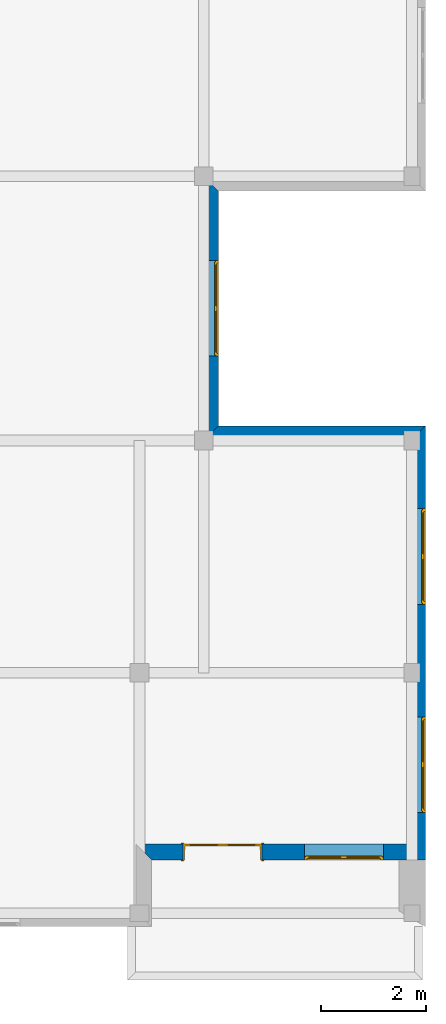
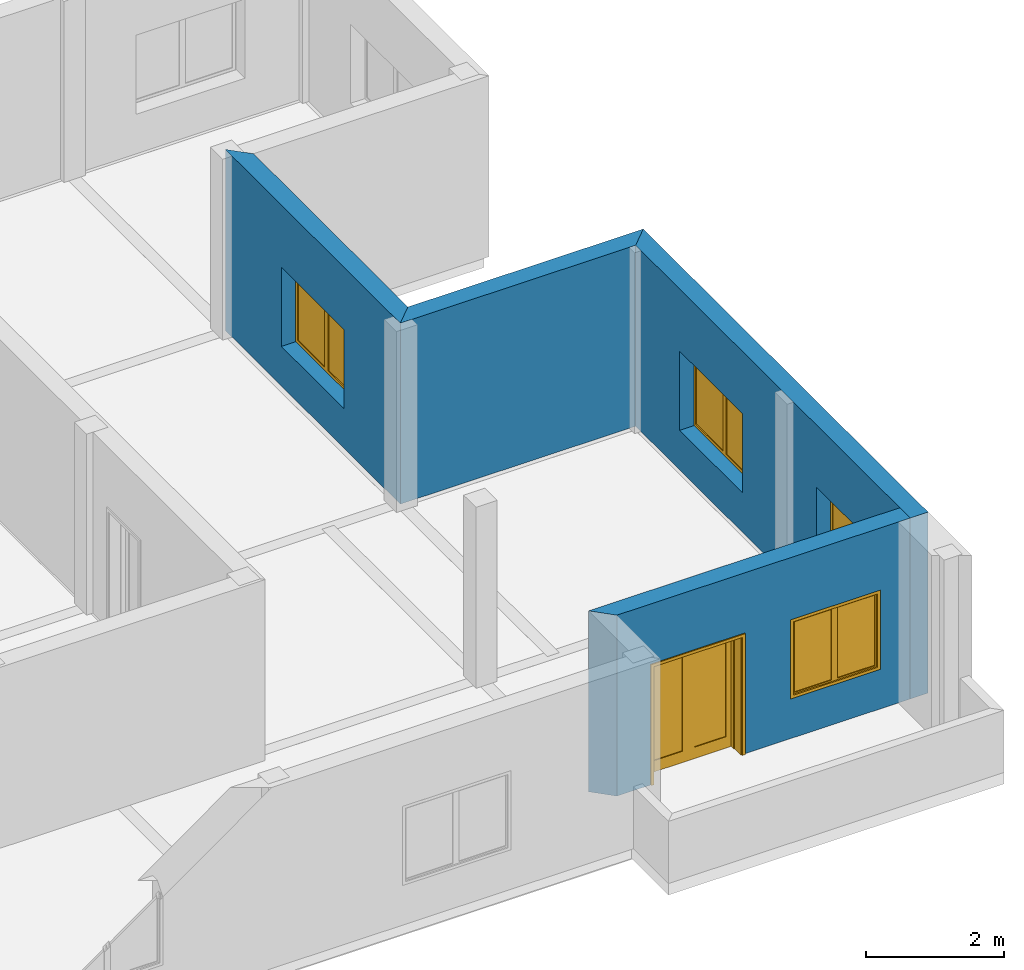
# One storey, part 5 of 6: 4 walls, 4 windows, 1 door, 5 openings.
"""IFC2X3 building model written with IfcOpenShell, lengths in millimetres."""

from ifc_helpers import new_model, entity, si_unit, converted_unit, direction, frame, origin_with_axes, origin_2d_with_axis, place, context, subcontext, project, spatial, polyline, rectangle, outline, extrude, faceted_brep, source, transform, mapped, material, layer, layer_set, layer_usage, type_object, element, fill, save


model = new_model("IFC2X3")

# Units and contexts
model_context = context("Model", 3, precision=1e-05, world=origin_with_axes(), true_north=direction((0.0, 1.0)))
body_context = subcontext(model_context, "Body", "Model", "MODEL_VIEW")
ifc_project = project(units=[si_unit("LENGTHUNIT", "METRE", prefix="MILLI"), si_unit("AREAUNIT", "SQUARE_METRE"), si_unit("VOLUMEUNIT", "CUBIC_METRE"), converted_unit("PLANEANGLEUNIT", "DEGREE", entity("IfcPlaneAngleMeasure", 0.017453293), si_unit("PLANEANGLEUNIT", "RADIAN"), dimensions=[0, 0, 0, 0, 0, 0, 0]), si_unit("SOLIDANGLEUNIT", "STERADIAN"), si_unit("MASSUNIT", "GRAM"), si_unit("TIMEUNIT", "SECOND"), si_unit("THERMODYNAMICTEMPERATUREUNIT", "DEGREE_CELSIUS"), si_unit("LUMINOUSINTENSITYUNIT", "LUMEN")], contexts=[model_context])

# Site, building, storey
site_placement = place(None, origin_with_axes())
site = spatial("IfcSite", under=ifc_project, at=site_placement, Name="Sitio", CompositionType="ELEMENT")
building_placement = place(site_placement, origin_with_axes())
building = spatial("IfcBuilding", under=site, at=building_placement, Name="Ejemplo_StruBIM", CompositionType="ELEMENT")
storey_placement = place(building_placement, frame((0.0, 0.0, 12801.6), z_axis=(0.0, 0.0, 1.0), x_axis=(1.0, 0.0, 0.0)))
storey = spatial("IfcBuildingStorey", under=building, at=storey_placement, Name="Fourth floor", CompositionType="ELEMENT", Elevation=12801.6)

# Wall
ifc_material_1 = material(Name="Bloque mampostería")
ifc_layer = layer(ifc_material_1, 300.0, ventilated="UNKNOWN")
ifc_layer_set = layer_set([ifc_layer], Name="Bloque mampostería 300")
ifc_layer_usage_1 = layer_usage(ifc_layer_set, "AXIS2", "POSITIVE", 0.0)
wall_type = type_object("IfcWallType", Name="Bloque mampostería 11 3/4\"", PredefinedType="NOTDEFINED")
wall_1_placement = place(storey_placement, frame((22809.2, 9271.0, 0.0), z_axis=(0.0, 0.0, 1.0), x_axis=(-1.0, 0.0, 0.0)))
element("IfcWallStandardCase", 1, at=wall_1_placement, inside=storey, type_object=wall_type, material=ifc_layer_usage_1, Name="Muro-012", context=body_context, shape_type="SweptSolid", body=[
    extrude(outline(polyline([(0.0, 0.0), (3937.0, 0.0), (4237.0, 300.0), (300.0, 300.0), (0.0, 0.0)])), origin_with_axes(), (0.0, 0.0, 1.0), 3200.4),
])

# Wall, opening, window
ifc_layer_usage_2 = layer_usage(ifc_layer_set, "AXIS2", "POSITIVE", 0.0)
wall_2_placement = place(storey_placement, frame((18872.2, 9271.0, 0.0), z_axis=(0.0, 0.0, 1.0), x_axis=(0.0, 1.0, 0.0)))
wall_2 = element("IfcWallStandardCase", 2, at=wall_2_placement, inside=storey, type_object=wall_type, material=ifc_layer_usage_2, Name="Muro-013", context=body_context, shape_type="SweptSolid", body=[
    extrude(outline(polyline([(0.0, 0.0), (4470.4, 0.0), (4770.4, 300.0), (-300.0, 300.0), (0.0, 0.0)])), origin_with_axes(), (0.0, 0.0, 1.0), 3200.4),
])
opening_1_placement = place(wall_2_placement, frame((2235.2, 0.0, 700.0), z_axis=(0.0, 0.0, 1.0), x_axis=(1.0, 0.0, 0.0)))
opening_1 = element("IfcOpeningElement", 3, at=opening_1_placement, cuts=wall_2, Name="V18", context=body_context, shape_type="SweptSolid", body=[
    extrude(rectangle(XDim=1820.0, YDim=1400.0, at=origin_2d_with_axis()), frame((0.0, 300.0, 700.0), z_axis=(0.0, -1.0, 0.0), x_axis=(1.0, 0.0, 0.0)), (0.0, 0.0, 1.0), 300.0),
])
ifc_material_2 = material(Name="Fondo")
window_style = type_object("IfcWindowStyle", Name="Ventana Doble Hoja 16", ConstructionType="NOTDEFINED", OperationType="DOUBLE_PANEL_HORIZONTAL", ParameterTakesPrecedence=False, Sizeable=False)
shared_shape_1 = source(origin_with_axes(), body_context, "Body", "Brep", [
    faceted_brep([(-885.0, -50.0, 1350.0), (-885.0, -25.0, 1350.0), (-860.0, -25.0, 1350.0), (-860.0, 0.0, 1350.0), (-910.0, 0.0, 1350.0), (-910.0, -50.0, 1350.0), (-885.0, -50.0, 50.0), (-885.0, -25.0, 50.0), (-860.0, -25.0, 50.0), (-860.0, 0.0, 50.0), (-910.0, 0.0, 50.0), (-910.0, -50.0, 50.0)], [[[0, 1, 2, 3, 4, 5]], [[1, 0, 6, 7]], [[8, 2, 1, 7]], [[2, 8, 9, 3]], [[4, 3, 9, 10]], [[5, 4, 10, 11]], [[6, 0, 5, 11]], [[7, 6, 11, 10, 9, 8]]]),
    faceted_brep([(860.0, -25.0, 1350.0), (885.0, -25.0, 1350.0), (885.0, -50.0, 1350.0), (910.0, -50.0, 1350.0), (910.0, 0.0, 1350.0), (860.0, 0.0, 1350.0), (860.0, -25.0, 50.0), (885.0, -25.0, 50.0), (885.0, -50.0, 50.0), (910.0, -50.0, 50.0), (910.0, 0.0, 50.0), (860.0, 0.0, 50.0)], [[[0, 1, 2, 3, 4, 5]], [[1, 0, 6, 7]], [[8, 2, 1, 7]], [[2, 8, 9, 3]], [[9, 10, 4, 3]], [[10, 11, 5, 4]], [[6, 0, 5, 11]], [[7, 6, 11, 10, 9, 8]]]),
    faceted_brep([(860.0, -25.0, 50.0), (885.0, -25.0, 50.0), (885.0, -50.0, 50.0), (910.0, -50.0, 50.0), (910.0, 0.0, 50.0), (860.0, 0.0, 50.0), (-860.0, -25.0, 50.0), (-885.0, -25.0, 50.0), (-885.0, -25.0, 25.0), (885.0, -25.0, 25.0), (885.0, -50.0, 25.0), (-885.0, -50.0, 25.0), (-885.0, -50.0, 50.0), (-910.0, -50.0, 50.0), (-910.0, -50.0, 0.0), (910.0, -50.0, 0.0), (910.0, 0.0, 0.0), (-910.0, 0.0, 50.0), (-860.0, 0.0, 50.0), (-910.0, 0.0, 0.0)], [[[0, 1, 2, 3, 4, 5]], [[1, 0, 6, 7, 8, 9]], [[10, 2, 1, 9]], [[11, 12, 13, 14, 15, 3, 2, 10]], [[15, 16, 4, 3]], [[17, 18, 5, 4, 16, 19]], [[6, 0, 5, 18]], [[7, 6, 18, 17, 13, 12]], [[7, 12, 11, 8]], [[11, 10, 9, 8]], [[13, 17, 19, 14]], [[14, 19, 16, 15]]]),
    faceted_brep([(-885.0, -50.0, 1350.0), (-885.0, -50.0, 1375.0), (885.0, -50.0, 1375.0), (885.0, -50.0, 1350.0), (910.0, -50.0, 1350.0), (910.0, -50.0, 1400.0), (-910.0, -50.0, 1400.0), (-910.0, -50.0, 1350.0), (-885.0, -25.0, 1350.0), (-885.0, -25.0, 1375.0), (885.0, -25.0, 1375.0), (885.0, -25.0, 1350.0), (860.0, -25.0, 1350.0), (860.0, 0.0, 1350.0), (910.0, 0.0, 1350.0), (910.0, 0.0, 1400.0), (-910.0, 0.0, 1400.0), (-910.0, 0.0, 1350.0), (-860.0, 0.0, 1350.0), (-860.0, -25.0, 1350.0)], [[[0, 1, 2, 3, 4, 5, 6, 7]], [[1, 0, 8, 9]], [[2, 1, 9, 10]], [[3, 2, 10, 11]], [[11, 12, 13, 14, 4, 3]], [[4, 14, 15, 5]], [[5, 15, 16, 6]], [[6, 16, 17, 7]], [[8, 0, 7, 17, 18, 19]], [[12, 11, 10, 9, 8, 19]], [[12, 19, 18, 13]], [[14, 13, 18, 17, 16, 15]]]),
    faceted_brep([(-835.0, -25.0, 1325.0), (-885.0, -25.0, 1325.0), (-885.0, -75.0, 1325.0), (-835.0, -75.0, 1325.0), (-835.0, -25.0, 75.0), (-885.0, -25.0, 75.0), (-885.0, -75.0, 75.0), (-835.0, -75.0, 75.0)], [[[0, 1, 2, 3]], [[0, 4, 5, 1]], [[1, 5, 6, 2]], [[3, 2, 6, 7]], [[4, 0, 3, 7]], [[5, 4, 7, 6]]]),
    faceted_brep([(-50.0, -25.0, 75.0), (0.0, -25.0, 75.0), (0.0, -75.0, 75.0), (-50.0, -75.0, 75.0), (-50.0, -25.0, 1325.0), (0.0, -25.0, 1325.0), (0.0, -75.0, 1325.0), (-50.0, -75.0, 1325.0)], [[[0, 1, 2, 3]], [[0, 4, 5, 1]], [[1, 5, 6, 2]], [[3, 2, 6, 7]], [[4, 0, 3, 7]], [[5, 4, 7, 6]]]),
    faceted_brep([(0.0, -25.0, 25.0), (0.0, -25.0, 75.0), (0.0, -75.0, 75.0), (0.0, -75.0, 25.0), (-885.0, -25.0, 25.0), (-885.0, -25.0, 75.0), (-835.0, -25.0, 75.0), (-50.0, -25.0, 75.0), (-50.0, -75.0, 75.0), (-835.0, -75.0, 75.0), (-885.0, -75.0, 75.0), (-885.0, -75.0, 25.0)], [[[0, 1, 2, 3]], [[0, 4, 5, 6, 7, 1]], [[1, 7, 8, 2]], [[3, 2, 8, 9, 10, 11]], [[4, 0, 3, 11]], [[5, 4, 11, 10]], [[6, 5, 10, 9]], [[7, 6, 9, 8]]]),
    faceted_brep([(-885.0, -25.0, 1375.0), (-885.0, -25.0, 1325.0), (-885.0, -75.0, 1325.0), (-885.0, -75.0, 1375.0), (0.0, -25.0, 1375.0), (0.0, -25.0, 1325.0), (-50.0, -25.0, 1325.0), (-835.0, -25.0, 1325.0), (-835.0, -75.0, 1325.0), (-50.0, -75.0, 1325.0), (0.0, -75.0, 1325.0), (0.0, -75.0, 1375.0)], [[[0, 1, 2, 3]], [[0, 4, 5, 6, 7, 1]], [[1, 7, 8, 2]], [[3, 2, 8, 9, 10, 11]], [[4, 0, 3, 11]], [[5, 4, 11, 10]], [[6, 5, 10, 9]], [[7, 6, 9, 8]]]),
    faceted_brep([(-835.0, -40.0, 75.0), (-50.0, -40.0, 75.0), (-50.0, -60.0, 75.0), (-835.0, -60.0, 75.0), (-835.0, -40.0, 1325.0), (-50.0, -40.0, 1325.0), (-50.0, -60.0, 1325.0), (-835.0, -60.0, 1325.0)], [[[0, 1, 2, 3]], [[0, 4, 5, 1]], [[1, 5, 6, 2]], [[3, 2, 6, 7]], [[4, 0, 3, 7]], [[5, 4, 7, 6]]]),
    faceted_brep([(50.0, -25.0, 1325.0), (0.0, -25.0, 1325.0), (0.0, -75.0, 1325.0), (50.0, -75.0, 1325.0), (50.0, -25.0, 75.0), (0.0, -25.0, 75.0), (0.0, -75.0, 75.0), (50.0, -75.0, 75.0)], [[[0, 1, 2, 3]], [[0, 4, 5, 1]], [[1, 5, 6, 2]], [[3, 2, 6, 7]], [[4, 0, 3, 7]], [[5, 4, 7, 6]]]),
    faceted_brep([(835.0, -25.0, 75.0), (885.0, -25.0, 75.0), (885.0, -75.0, 75.0), (835.0, -75.0, 75.0), (835.0, -25.0, 1325.0), (885.0, -25.0, 1325.0), (885.0, -75.0, 1325.0), (835.0, -75.0, 1325.0)], [[[0, 1, 2, 3]], [[0, 4, 5, 1]], [[1, 5, 6, 2]], [[3, 2, 6, 7]], [[4, 0, 3, 7]], [[5, 4, 7, 6]]]),
    faceted_brep([(885.0, -25.0, 25.0), (885.0, -25.0, 75.0), (885.0, -75.0, 75.0), (885.0, -75.0, 25.0), (0.0, -25.0, 25.0), (0.0, -25.0, 75.0), (50.0, -25.0, 75.0), (835.0, -25.0, 75.0), (835.0, -75.0, 75.0), (50.0, -75.0, 75.0), (0.0, -75.0, 75.0), (0.0, -75.0, 25.0)], [[[0, 1, 2, 3]], [[0, 4, 5, 6, 7, 1]], [[1, 7, 8, 2]], [[3, 2, 8, 9, 10, 11]], [[4, 0, 3, 11]], [[5, 4, 11, 10]], [[6, 5, 10, 9]], [[7, 6, 9, 8]]]),
    faceted_brep([(0.0, -25.0, 1375.0), (0.0, -25.0, 1325.0), (0.0, -75.0, 1325.0), (0.0, -75.0, 1375.0), (885.0, -25.0, 1375.0), (885.0, -25.0, 1325.0), (835.0, -25.0, 1325.0), (50.0, -25.0, 1325.0), (50.0, -75.0, 1325.0), (835.0, -75.0, 1325.0), (885.0, -75.0, 1325.0), (885.0, -75.0, 1375.0)], [[[0, 1, 2, 3]], [[0, 4, 5, 6, 7, 1]], [[1, 7, 8, 2]], [[3, 2, 8, 9, 10, 11]], [[4, 0, 3, 11]], [[5, 4, 11, 10]], [[6, 5, 10, 9]], [[7, 6, 9, 8]]]),
    faceted_brep([(50.0, -40.0, 75.0), (835.0, -40.0, 75.0), (835.0, -60.0, 75.0), (50.0, -60.0, 75.0), (50.0, -40.0, 1325.0), (835.0, -40.0, 1325.0), (835.0, -60.0, 1325.0), (50.0, -60.0, 1325.0)], [[[0, 1, 2, 3]], [[0, 4, 5, 1]], [[1, 5, 6, 2]], [[3, 2, 6, 7]], [[4, 0, 3, 7]], [[5, 4, 7, 6]]]),
])
window_1_placement = place(opening_1_placement, frame((910.0, 0.0, 0.0), z_axis=(0.0, 0.0, 1.0), x_axis=(-1.0, 0.0, 0.0)))
window_1 = element("IfcWindow", 4, at=window_1_placement, inside=storey, type_object=window_style, material=ifc_material_2, Name="V18", OverallHeight=1400.0, OverallWidth=1820.0, context=body_context, shape_type="MappedRepresentation", body=[
    mapped(shared_shape_1, transform((910.0, 0.0, 0.0))),
])
fill(opening_1, window_1)

# Wall, openings, windows
ifc_layer_usage_3 = layer_usage(ifc_layer_set, "AXIS2", "POSITIVE", 0.0)
wall_3_placement = place(storey_placement, frame((22809.2, 1016.0, 0.0), z_axis=(0.0, 0.0, 1.0), x_axis=(0.0, 1.0, 0.0)))
wall_3 = element("IfcWallStandardCase", 5, at=wall_3_placement, inside=storey, type_object=wall_type, material=ifc_layer_usage_3, Name="Muro-014", context=body_context, shape_type="SweptSolid", body=[
    extrude(outline(polyline([(0.0, 0.0), (8255.0, 0.0), (7955.0, 300.0), (0.0, 300.0), (0.0, 0.0)])), origin_with_axes(), (0.0, 0.0, 1.0), 3200.4),
])
opening_2_placement = place(wall_3_placement, frame((5770.2, 0.0, 700.0), z_axis=(0.0, 0.0, 1.0), x_axis=(1.0, 0.0, 0.0)))
opening_2 = element("IfcOpeningElement", 6, at=opening_2_placement, cuts=wall_3, Name="V14", context=body_context, shape_type="SweptSolid", body=[
    extrude(rectangle(XDim=1820.0, YDim=1400.0, at=origin_2d_with_axis()), frame((0.0, 300.0, 700.0), z_axis=(0.0, -1.0, 0.0), x_axis=(1.0, 0.0, 0.0)), (0.0, 0.0, 1.0), 300.0),
])
opening_3_placement = place(wall_3_placement, frame((1811.7, 0.0, 700.0), z_axis=(0.0, 0.0, 1.0), x_axis=(1.0, 0.0, 0.0)))
opening_3 = element("IfcOpeningElement", 7, at=opening_3_placement, cuts=wall_3, Name="V15", context=body_context, shape_type="SweptSolid", body=[
    extrude(rectangle(XDim=1820.0, YDim=1400.0, at=origin_2d_with_axis()), frame((0.0, 300.0, 700.0), z_axis=(0.0, -1.0, 0.0), x_axis=(1.0, 0.0, 0.0)), (0.0, 0.0, 1.0), 300.0),
])
window_2_placement = place(opening_2_placement, frame((910.0, 0.0, 0.0), z_axis=(0.0, 0.0, 1.0), x_axis=(-1.0, 0.0, 0.0)))
window_2 = element("IfcWindow", 8, at=window_2_placement, inside=storey, type_object=window_style, material=ifc_material_2, Name="V14", OverallHeight=1400.0, OverallWidth=1820.0, context=body_context, shape_type="MappedRepresentation", body=[
    mapped(shared_shape_1, transform((910.0, 0.0, 0.0))),
])
fill(opening_2, window_2)
window_3_placement = place(opening_3_placement, frame((910.0, 0.0, 0.0), z_axis=(0.0, 0.0, 1.0), x_axis=(-1.0, 0.0, 0.0)))
window_3 = element("IfcWindow", 9, at=window_3_placement, inside=storey, type_object=window_style, material=ifc_material_2, Name="V15", OverallHeight=1400.0, OverallWidth=1820.0, context=body_context, shape_type="MappedRepresentation", body=[
    mapped(shared_shape_1, transform((910.0, 0.0, 0.0))),
])
fill(opening_3, window_3)

# Wall, openings, door, window
ifc_layer_usage_4 = layer_usage(ifc_layer_set, "AXIS2", "POSITIVE", 0.0)
wall_4_placement = place(storey_placement, frame((17602.2, 1016.0, 0.0), z_axis=(0.0, 0.0, 1.0), x_axis=(1.0, 0.0, 0.0)))
wall_4 = element("IfcWallStandardCase", 10, at=wall_4_placement, inside=storey, type_object=wall_type, material=ifc_layer_usage_4, Name="Muro-015", context=body_context, shape_type="SweptSolid", body=[
    extrude(outline(polyline([(0.0, 0.0), (4907.0, 0.0), (4907.0, 300.0), (-300.0, 300.0), (0.0, 0.0)])), origin_with_axes(), (0.0, 0.0, 1.0), 3200.4),
])
opening_4_placement = place(wall_4_placement, frame((3657.6, 0.0, 700.0), z_axis=(0.0, 0.0, 1.0), x_axis=(1.0, 0.0, 0.0)))
opening_4 = element("IfcOpeningElement", 11, at=opening_4_placement, cuts=wall_4, Name="V02", context=body_context, shape_type="SweptSolid", body=[
    extrude(rectangle(XDim=1500.0, YDim=1400.0, at=origin_2d_with_axis()), frame((0.0, 300.0, 700.0), z_axis=(0.0, -1.0, 0.0), x_axis=(1.0, 0.0, 0.0)), (0.0, 0.0, 1.0), 300.0),
])
opening_5_placement = place(wall_4_placement, frame((1350.0, 0.0, 0.0), z_axis=(0.0, 0.0, 1.0), x_axis=(1.0, 0.0, 0.0)))
opening_5 = element("IfcOpeningElement", 12, at=opening_5_placement, cuts=wall_4, Name="P05", context=body_context, shape_type="SweptSolid", body=[
    extrude(rectangle(XDim=1500.0, YDim=2100.0, at=origin_2d_with_axis()), frame((0.0, 0.0, 1050.0), z_axis=(0.0, -1.0, 0.0), x_axis=(1.0, 0.0, 0.0)), (0.0, 0.0, -1.0), 300.0),
    extrude(rectangle(XDim=1574.0, YDim=2137.0, at=origin_2d_with_axis()), frame((0.0, 0.0, 1068.5), z_axis=(0.0, -1.0, 0.0), x_axis=(1.0, 0.0, 0.0)), (0.0, 0.0, 1.0), 300.0),
    extrude(rectangle(XDim=1574.0, YDim=2137.0, at=origin_2d_with_axis()), frame((0.0, 300.0, 1068.5), z_axis=(0.0, 1.0, 0.0), x_axis=(1.0, 0.0, 0.0)), (0.0, 0.0, 1.0), 300.0),
])
door_style = type_object("IfcDoorStyle", Name="Puerta Doble 16", ConstructionType="NOTDEFINED", OperationType="SINGLE_SWING_LEFT", ParameterTakesPrecedence=False, Sizeable=False)
shared_shape_2 = source(origin_with_axes(), body_context, "Body", "Brep", [
    faceted_brep([(750.0, -115.0, 0.0), (750.0, -300.0, 0.0), (725.0, -300.0, 0.0), (725.0, -115.0, 0.0), (750.0, -115.0, 2100.0), (750.0, -300.0, 2100.0), (725.0, -300.0, 2075.0), (725.0, -115.0, 2075.0)], [[[0, 1, 2, 3]], [[4, 5, 1, 0]], [[1, 5, 6, 2]], [[3, 2, 6, 7]], [[0, 3, 7, 4]], [[7, 6, 5, 4]]]),
    faceted_brep([(-750.0, -115.0, 2100.0), (-750.0, -300.0, 2100.0), (-725.0, -300.0, 2075.0), (-725.0, -115.0, 2075.0), (-750.0, -115.0, 0.0), (-750.0, -300.0, 0.0), (-725.0, -300.0, 0.0), (-725.0, -115.0, 0.0)], [[[0, 1, 2, 3]], [[4, 5, 1, 0]], [[1, 5, 6, 2]], [[3, 2, 6, 7]], [[0, 3, 7, 4]], [[7, 6, 5, 4]]]),
    faceted_brep([(725.0, -115.0, 2075.0), (725.0, -300.0, 2075.0), (-725.0, -300.0, 2075.0), (-725.0, -115.0, 2075.0), (750.0, -115.0, 2100.0), (750.0, -300.0, 2100.0), (-750.0, -300.0, 2100.0), (-750.0, -115.0, 2100.0)], [[[0, 1, 2, 3]], [[4, 5, 1, 0]], [[1, 5, 6, 2]], [[3, 2, 6, 7]], [[0, 3, 7, 4]], [[7, 6, 5, 4]]]),
    faceted_brep([(787.0, -319.0, 0.0), (737.0, -319.0, 0.0), (737.0, -300.0, 0.0), (787.0, -300.0, 0.0), (787.0, -319.0, 2137.0), (737.0, -319.0, 2087.0), (737.0, -300.0, 2087.0), (787.0, -300.0, 2137.0)], [[[0, 1, 2, 3]], [[0, 4, 5, 1]], [[1, 5, 6, 2]], [[3, 2, 6, 7]], [[4, 0, 3, 7]], [[5, 4, 7, 6]]]),
    faceted_brep([(-787.0, -319.0, 2137.0), (-737.0, -319.0, 2087.0), (-737.0, -300.0, 2087.0), (-787.0, -300.0, 2137.0), (-787.0, -319.0, 0.0), (-737.0, -319.0, 0.0), (-737.0, -300.0, 0.0), (-787.0, -300.0, 0.0)], [[[0, 1, 2, 3]], [[0, 4, 5, 1]], [[1, 5, 6, 2]], [[3, 2, 6, 7]], [[4, 0, 3, 7]], [[5, 4, 7, 6]]]),
    faceted_brep([(787.0, -319.0, 2137.0), (737.0, -319.0, 2087.0), (737.0, -300.0, 2087.0), (787.0, -300.0, 2137.0), (-787.0, -319.0, 2137.0), (-737.0, -319.0, 2087.0), (-737.0, -300.0, 2087.0), (-787.0, -300.0, 2137.0)], [[[0, 1, 2, 3]], [[0, 4, 5, 1]], [[1, 5, 6, 2]], [[3, 2, 6, 7]], [[4, 0, 3, 7]], [[5, 4, 7, 6]]]),
    faceted_brep([(787.0, 19.0, 0.0), (787.0, 0.0, 0.0), (737.0, 0.0, 0.0), (737.0, 19.0, 0.0), (787.0, 19.0, 2137.0), (787.0, 0.0, 2137.0), (737.0, 0.0, 2087.0), (737.0, 19.0, 2087.0)], [[[0, 1, 2, 3]], [[4, 5, 1, 0]], [[1, 5, 6, 2]], [[3, 2, 6, 7]], [[0, 3, 7, 4]], [[7, 6, 5, 4]]]),
    faceted_brep([(-787.0, 19.0, 2137.0), (-787.0, 0.0, 2137.0), (-737.0, 0.0, 2087.0), (-737.0, 19.0, 2087.0), (-787.0, 19.0, 0.0), (-787.0, 0.0, 0.0), (-737.0, 0.0, 0.0), (-737.0, 19.0, 0.0)], [[[0, 1, 2, 3]], [[4, 5, 1, 0]], [[1, 5, 6, 2]], [[3, 2, 6, 7]], [[0, 3, 7, 4]], [[7, 6, 5, 4]]]),
    faceted_brep([(787.0, 19.0, 2137.0), (787.0, 0.0, 2137.0), (737.0, 0.0, 2087.0), (737.0, 19.0, 2087.0), (-787.0, 19.0, 2137.0), (-787.0, 0.0, 2137.0), (-737.0, 0.0, 2087.0), (-737.0, 19.0, 2087.0)], [[[0, 1, 2, 3]], [[4, 5, 1, 0]], [[1, 5, 6, 2]], [[3, 2, 6, 7]], [[0, 3, 7, 4]], [[7, 6, 5, 4]]]),
    faceted_brep([(710.0, -40.0, 0.0), (710.0, -115.0, 0.0), (710.0, -115.0, 2060.0), (710.0, -40.0, 2060.0), (722.0, -40.0, 0.0), (722.0, 2.2351741e-07, 0.0), (750.0, 2.2351741e-07, -3.8951635e-07), (750.0, -115.0, 0.0), (750.0, -115.0, 2060.0), (722.0, -40.0, 2060.0), (750.0, 2.2351741e-07, 2060.0), (722.0, 2.2351741e-07, 2060.0)], [[[0, 1, 2, 3]], [[4, 5, 6, 7, 1, 0]], [[8, 2, 1, 7]], [[9, 3, 2, 8, 10, 11]], [[9, 4, 0, 3]], [[11, 5, 4, 9]], [[11, 10, 6, 5]], [[7, 6, 10, 8]]]),
    faceted_brep([(-722.0, -40.0, 2060.0), (-722.0, 2.2351741e-07, 2060.0), (-750.0, 2.2351741e-07, 2060.0), (-750.0, -115.0, 2060.0), (-710.0, -115.0, 2060.0), (-710.0, -40.0, 2060.0), (-722.0, -40.0, 0.0), (-722.0, 2.2351741e-07, 0.0), (-750.0, 2.2351741e-07, -3.8951635e-07), (-750.0, -115.0, 0.0), (-710.0, -115.0, 0.0), (-710.0, -40.0, 0.0)], [[[0, 1, 2, 3, 4, 5]], [[0, 6, 7, 1]], [[7, 8, 2, 1]], [[3, 2, 8, 9]], [[10, 4, 3, 9]], [[5, 4, 10, 11]], [[5, 11, 6, 0]], [[6, 11, 10, 9, 8, 7]]]),
    faceted_brep([(722.0, 2.2351741e-07, 2072.0), (-722.0, 2.2351741e-07, 2072.0), (-722.0, 2.2351741e-07, 2060.0), (-750.0, 2.2351741e-07, 2060.0), (-750.0, 2.2351741e-07, 2100.0), (750.0, 2.2351741e-07, 2100.0), (750.0, 2.2351741e-07, 2060.0), (722.0, 2.2351741e-07, 2060.0), (722.0, -40.0, 2072.0), (-722.0, -40.0, 2072.0), (-722.0, -40.0, 2060.0), (-710.0, -40.0, 2060.0), (-710.0, -115.0, 2060.0), (-750.0, -115.0, 2060.0), (-750.0, -115.0, 2100.0), (750.0, -115.0, 2100.0), (750.0, -115.0, 2060.0), (722.0, -40.0, 2060.0), (710.0, -115.0, 2060.0), (710.0, -40.0, 2060.0)], [[[0, 1, 2, 3, 4, 5, 6, 7]], [[0, 8, 9, 1]], [[1, 9, 10, 2]], [[10, 11, 12, 13, 3, 2]], [[14, 4, 3, 13]], [[15, 5, 4, 14]], [[16, 6, 5, 15]], [[17, 7, 6, 16, 18, 19]], [[7, 17, 8, 0]], [[10, 9, 8, 17, 19, 11]], [[19, 18, 12, 11]], [[14, 13, 12, 18, 16, 15]]]),
    faceted_brep([(-722.0, 0.0, 200.0), (-622.0, 0.0, 200.0), (-622.0, -40.0, 200.0), (-722.0, -40.0, 200.0), (-722.0, 0.0, 1972.0), (-622.0, 0.0, 1972.0), (-622.0, -40.0, 1972.0), (-722.0, -40.0, 1972.0)], [[[0, 1, 2, 3]], [[0, 4, 5, 1]], [[1, 5, 6, 2]], [[3, 2, 6, 7]], [[4, 0, 3, 7]], [[5, 4, 7, 6]]]),
    faceted_brep([(0.0, 0.0, 200.0), (0.0, 0.0, 1972.0), (0.0, -40.0, 1972.0), (0.0, -40.0, 200.0), (-100.0, 0.0, 200.0), (-100.0, 0.0, 1972.0), (-100.0, -40.0, 1972.0), (-100.0, -40.0, 200.0)], [[[0, 1, 2, 3]], [[0, 4, 5, 1]], [[1, 5, 6, 2]], [[3, 2, 6, 7]], [[4, 0, 3, 7]], [[5, 4, 7, 6]]]),
    faceted_brep([(-722.0, 0.0, 0.0), (0.0, 0.0, 0.0), (0.0, -40.0, 0.0), (-722.0, -40.0, 0.0), (-722.0, 0.0, 200.0), (-622.0, 0.0, 200.0), (-100.0, 0.0, 200.0), (0.0, 0.0, 200.0), (0.0, -40.0, 200.0), (-100.0, -40.0, 200.0), (-622.0, -40.0, 200.0), (-722.0, -40.0, 200.0)], [[[0, 1, 2, 3]], [[0, 4, 5, 6, 7, 1]], [[1, 7, 8, 2]], [[3, 2, 8, 9, 10, 11]], [[4, 0, 3, 11]], [[5, 4, 11, 10]], [[6, 5, 10, 9]], [[7, 6, 9, 8]]]),
    faceted_brep([(-722.0, 0.0, 2072.0), (-722.0, 0.0, 1972.0), (-722.0, -40.0, 1972.0), (-722.0, -40.0, 2072.0), (0.0, 0.0, 2072.0), (0.0, 0.0, 1972.0), (-100.0, 0.0, 1972.0), (-622.0, 0.0, 1972.0), (-622.0, -40.0, 1972.0), (-100.0, -40.0, 1972.0), (0.0, -40.0, 1972.0), (0.0, -40.0, 2072.0)], [[[0, 1, 2, 3]], [[0, 4, 5, 6, 7, 1]], [[1, 7, 8, 2]], [[3, 2, 8, 9, 10, 11]], [[4, 0, 3, 11]], [[5, 4, 11, 10]], [[6, 5, 10, 9]], [[7, 6, 9, 8]]]),
    faceted_brep([(-622.0, -14.0, 200.0), (-100.0, -14.0, 200.0), (-100.0, -26.0, 200.0), (-622.0, -26.0, 200.0), (-622.0, -14.0, 1972.0), (-100.0, -14.0, 1972.0), (-100.0, -26.0, 1972.0), (-622.0, -26.0, 1972.0)], [[[0, 1, 2, 3]], [[0, 4, 5, 1]], [[1, 5, 6, 2]], [[3, 2, 6, 7]], [[4, 0, 3, 7]], [[5, 4, 7, 6]]]),
    faceted_brep([(722.0, 0.0, 200.0), (722.0, -40.0, 200.0), (622.0, -40.0, 200.0), (622.0, 0.0, 200.0), (722.0, 0.0, 1972.0), (722.0, -40.0, 1972.0), (622.0, -40.0, 1972.0), (622.0, 0.0, 1972.0)], [[[0, 1, 2, 3]], [[4, 5, 1, 0]], [[1, 5, 6, 2]], [[3, 2, 6, 7]], [[0, 3, 7, 4]], [[7, 6, 5, 4]]]),
    faceted_brep([(0.0, 0.0, 200.0), (0.0, -40.0, 200.0), (0.0, -40.0, 1972.0), (0.0, 0.0, 1972.0), (100.0, 0.0, 200.0), (100.0, -40.0, 200.0), (100.0, -40.0, 1972.0), (100.0, 0.0, 1972.0)], [[[0, 1, 2, 3]], [[4, 5, 1, 0]], [[1, 5, 6, 2]], [[3, 2, 6, 7]], [[0, 3, 7, 4]], [[7, 6, 5, 4]]]),
    faceted_brep([(722.0, 0.0, 0.0), (722.0, -40.0, 0.0), (0.0, -40.0, 0.0), (0.0, 0.0, 0.0), (722.0, 0.0, 200.0), (722.0, -40.0, 200.0), (622.0, -40.0, 200.0), (100.0, -40.0, 200.0), (0.0, -40.0, 200.0), (0.0, 0.0, 200.0), (100.0, 0.0, 200.0), (622.0, 0.0, 200.0)], [[[0, 1, 2, 3]], [[4, 5, 1, 0]], [[1, 5, 6, 7, 8, 2]], [[3, 2, 8, 9]], [[0, 3, 9, 10, 11, 4]], [[11, 6, 5, 4]], [[10, 7, 6, 11]], [[9, 8, 7, 10]]]),
    faceted_brep([(722.0, 0.0, 2072.0), (722.0, -40.0, 2072.0), (722.0, -40.0, 1972.0), (722.0, 0.0, 1972.0), (0.0, 0.0, 2072.0), (0.0, -40.0, 2072.0), (0.0, -40.0, 1972.0), (100.0, -40.0, 1972.0), (622.0, -40.0, 1972.0), (622.0, 0.0, 1972.0), (100.0, 0.0, 1972.0), (0.0, 0.0, 1972.0)], [[[0, 1, 2, 3]], [[4, 5, 1, 0]], [[1, 5, 6, 7, 8, 2]], [[3, 2, 8, 9]], [[0, 3, 9, 10, 11, 4]], [[11, 6, 5, 4]], [[10, 7, 6, 11]], [[9, 8, 7, 10]]]),
    faceted_brep([(622.0, -14.0, 200.0), (622.0, -26.0, 200.0), (100.0, -26.0, 200.0), (100.0, -14.0, 200.0), (622.0, -14.0, 1972.0), (622.0, -26.0, 1972.0), (100.0, -26.0, 1972.0), (100.0, -14.0, 1972.0)], [[[0, 1, 2, 3]], [[4, 5, 1, 0]], [[1, 5, 6, 2]], [[3, 2, 6, 7]], [[0, 3, 7, 4]], [[7, 6, 5, 4]]]),
])
door_placement = place(opening_5_placement, frame((-750.0, 0.0, 0.0), z_axis=(0.0, 0.0, 1.0), x_axis=(1.0, 0.0, 0.0)))
door = element("IfcDoor", 13, at=door_placement, inside=storey, type_object=door_style, material=ifc_material_2, Name="P05", OverallHeight=2100.0, OverallWidth=1500.0, context=body_context, shape_type="MappedRepresentation", body=[
    mapped(shared_shape_2, transform((750.0, 300.0, 0.0))),
])
fill(opening_5, door)
shared_shape_3 = source(origin_with_axes(), body_context, "Body", "Brep", [
    faceted_brep([(-725.0, -50.0, 1350.0), (-725.0, -25.0, 1350.0), (-700.0, -25.0, 1350.0), (-700.0, 0.0, 1350.0), (-750.0, 0.0, 1350.0), (-750.0, -50.0, 1350.0), (-725.0, -50.0, 50.0), (-725.0, -25.0, 50.0), (-700.0, -25.0, 50.0), (-700.0, 0.0, 50.0), (-750.0, 0.0, 50.0), (-750.0, -50.0, 50.0)], [[[0, 1, 2, 3, 4, 5]], [[1, 0, 6, 7]], [[8, 2, 1, 7]], [[2, 8, 9, 3]], [[4, 3, 9, 10]], [[5, 4, 10, 11]], [[6, 0, 5, 11]], [[7, 6, 11, 10, 9, 8]]]),
    faceted_brep([(700.0, -25.0, 1350.0), (725.0, -25.0, 1350.0), (725.0, -50.0, 1350.0), (750.0, -50.0, 1350.0), (750.0, 0.0, 1350.0), (700.0, 0.0, 1350.0), (700.0, -25.0, 50.0), (725.0, -25.0, 50.0), (725.0, -50.0, 50.0), (750.0, -50.0, 50.0), (750.0, 0.0, 50.0), (700.0, 0.0, 50.0)], [[[0, 1, 2, 3, 4, 5]], [[1, 0, 6, 7]], [[8, 2, 1, 7]], [[2, 8, 9, 3]], [[9, 10, 4, 3]], [[10, 11, 5, 4]], [[6, 0, 5, 11]], [[7, 6, 11, 10, 9, 8]]]),
    faceted_brep([(700.0, -25.0, 50.0), (725.0, -25.0, 50.0), (725.0, -50.0, 50.0), (750.0, -50.0, 50.0), (750.0, 0.0, 50.0), (700.0, 0.0, 50.0), (-700.0, -25.0, 50.0), (-725.0, -25.0, 50.0), (-725.0, -25.0, 25.0), (725.0, -25.0, 25.0), (725.0, -50.0, 25.0), (-725.0, -50.0, 25.0), (-725.0, -50.0, 50.0), (-750.0, -50.0, 50.0), (-750.0, -50.0, 0.0), (750.0, -50.0, 0.0), (750.0, 0.0, 0.0), (-750.0, 0.0, 50.0), (-700.0, 0.0, 50.0), (-750.0, 0.0, 0.0)], [[[0, 1, 2, 3, 4, 5]], [[1, 0, 6, 7, 8, 9]], [[10, 2, 1, 9]], [[11, 12, 13, 14, 15, 3, 2, 10]], [[15, 16, 4, 3]], [[17, 18, 5, 4, 16, 19]], [[6, 0, 5, 18]], [[7, 6, 18, 17, 13, 12]], [[7, 12, 11, 8]], [[11, 10, 9, 8]], [[13, 17, 19, 14]], [[14, 19, 16, 15]]]),
    faceted_brep([(-725.0, -50.0, 1350.0), (-725.0, -50.0, 1375.0), (725.0, -50.0, 1375.0), (725.0, -50.0, 1350.0), (750.0, -50.0, 1350.0), (750.0, -50.0, 1400.0), (-750.0, -50.0, 1400.0), (-750.0, -50.0, 1350.0), (-725.0, -25.0, 1350.0), (-725.0, -25.0, 1375.0), (725.0, -25.0, 1375.0), (725.0, -25.0, 1350.0), (700.0, -25.0, 1350.0), (700.0, 0.0, 1350.0), (750.0, 0.0, 1350.0), (750.0, 0.0, 1400.0), (-750.0, 0.0, 1400.0), (-750.0, 0.0, 1350.0), (-700.0, 0.0, 1350.0), (-700.0, -25.0, 1350.0)], [[[0, 1, 2, 3, 4, 5, 6, 7]], [[1, 0, 8, 9]], [[2, 1, 9, 10]], [[3, 2, 10, 11]], [[11, 12, 13, 14, 4, 3]], [[4, 14, 15, 5]], [[5, 15, 16, 6]], [[6, 16, 17, 7]], [[8, 0, 7, 17, 18, 19]], [[12, 11, 10, 9, 8, 19]], [[12, 19, 18, 13]], [[14, 13, 18, 17, 16, 15]]]),
    faceted_brep([(-675.0, -25.0, 1325.0), (-725.0, -25.0, 1325.0), (-725.0, -75.0, 1325.0), (-675.0, -75.0, 1325.0), (-675.0, -25.0, 75.0), (-725.0, -25.0, 75.0), (-725.0, -75.0, 75.0), (-675.0, -75.0, 75.0)], [[[0, 1, 2, 3]], [[0, 4, 5, 1]], [[1, 5, 6, 2]], [[3, 2, 6, 7]], [[4, 0, 3, 7]], [[5, 4, 7, 6]]]),
    faceted_brep([(-50.0, -25.0, 75.0), (0.0, -25.0, 75.0), (0.0, -75.0, 75.0), (-50.0, -75.0, 75.0), (-50.0, -25.0, 1325.0), (0.0, -25.0, 1325.0), (0.0, -75.0, 1325.0), (-50.0, -75.0, 1325.0)], [[[0, 1, 2, 3]], [[0, 4, 5, 1]], [[1, 5, 6, 2]], [[3, 2, 6, 7]], [[4, 0, 3, 7]], [[5, 4, 7, 6]]]),
    faceted_brep([(0.0, -25.0, 25.0), (0.0, -25.0, 75.0), (0.0, -75.0, 75.0), (0.0, -75.0, 25.0), (-725.0, -25.0, 25.0), (-725.0, -25.0, 75.0), (-675.0, -25.0, 75.0), (-50.0, -25.0, 75.0), (-50.0, -75.0, 75.0), (-675.0, -75.0, 75.0), (-725.0, -75.0, 75.0), (-725.0, -75.0, 25.0)], [[[0, 1, 2, 3]], [[0, 4, 5, 6, 7, 1]], [[1, 7, 8, 2]], [[3, 2, 8, 9, 10, 11]], [[4, 0, 3, 11]], [[5, 4, 11, 10]], [[6, 5, 10, 9]], [[7, 6, 9, 8]]]),
    faceted_brep([(-725.0, -25.0, 1375.0), (-725.0, -25.0, 1325.0), (-725.0, -75.0, 1325.0), (-725.0, -75.0, 1375.0), (0.0, -25.0, 1375.0), (0.0, -25.0, 1325.0), (-50.0, -25.0, 1325.0), (-675.0, -25.0, 1325.0), (-675.0, -75.0, 1325.0), (-50.0, -75.0, 1325.0), (0.0, -75.0, 1325.0), (0.0, -75.0, 1375.0)], [[[0, 1, 2, 3]], [[0, 4, 5, 6, 7, 1]], [[1, 7, 8, 2]], [[3, 2, 8, 9, 10, 11]], [[4, 0, 3, 11]], [[5, 4, 11, 10]], [[6, 5, 10, 9]], [[7, 6, 9, 8]]]),
    faceted_brep([(-675.0, -40.0, 75.0), (-50.0, -40.0, 75.0), (-50.0, -60.0, 75.0), (-675.0, -60.0, 75.0), (-675.0, -40.0, 1325.0), (-50.0, -40.0, 1325.0), (-50.0, -60.0, 1325.0), (-675.0, -60.0, 1325.0)], [[[0, 1, 2, 3]], [[0, 4, 5, 1]], [[1, 5, 6, 2]], [[3, 2, 6, 7]], [[4, 0, 3, 7]], [[5, 4, 7, 6]]]),
    faceted_brep([(50.0, -25.0, 1325.0), (0.0, -25.0, 1325.0), (0.0, -75.0, 1325.0), (50.0, -75.0, 1325.0), (50.0, -25.0, 75.0), (0.0, -25.0, 75.0), (0.0, -75.0, 75.0), (50.0, -75.0, 75.0)], [[[0, 1, 2, 3]], [[0, 4, 5, 1]], [[1, 5, 6, 2]], [[3, 2, 6, 7]], [[4, 0, 3, 7]], [[5, 4, 7, 6]]]),
    faceted_brep([(675.0, -25.0, 75.0), (725.0, -25.0, 75.0), (725.0, -75.0, 75.0), (675.0, -75.0, 75.0), (675.0, -25.0, 1325.0), (725.0, -25.0, 1325.0), (725.0, -75.0, 1325.0), (675.0, -75.0, 1325.0)], [[[0, 1, 2, 3]], [[0, 4, 5, 1]], [[1, 5, 6, 2]], [[3, 2, 6, 7]], [[4, 0, 3, 7]], [[5, 4, 7, 6]]]),
    faceted_brep([(725.0, -25.0, 25.0), (725.0, -25.0, 75.0), (725.0, -75.0, 75.0), (725.0, -75.0, 25.0), (0.0, -25.0, 25.0), (0.0, -25.0, 75.0), (50.0, -25.0, 75.0), (675.0, -25.0, 75.0), (675.0, -75.0, 75.0), (50.0, -75.0, 75.0), (0.0, -75.0, 75.0), (0.0, -75.0, 25.0)], [[[0, 1, 2, 3]], [[0, 4, 5, 6, 7, 1]], [[1, 7, 8, 2]], [[3, 2, 8, 9, 10, 11]], [[4, 0, 3, 11]], [[5, 4, 11, 10]], [[6, 5, 10, 9]], [[7, 6, 9, 8]]]),
    faceted_brep([(0.0, -25.0, 1375.0), (0.0, -25.0, 1325.0), (0.0, -75.0, 1325.0), (0.0, -75.0, 1375.0), (725.0, -25.0, 1375.0), (725.0, -25.0, 1325.0), (675.0, -25.0, 1325.0), (50.0, -25.0, 1325.0), (50.0, -75.0, 1325.0), (675.0, -75.0, 1325.0), (725.0, -75.0, 1325.0), (725.0, -75.0, 1375.0)], [[[0, 1, 2, 3]], [[0, 4, 5, 6, 7, 1]], [[1, 7, 8, 2]], [[3, 2, 8, 9, 10, 11]], [[4, 0, 3, 11]], [[5, 4, 11, 10]], [[6, 5, 10, 9]], [[7, 6, 9, 8]]]),
    faceted_brep([(50.0, -40.0, 75.0), (675.0, -40.0, 75.0), (675.0, -60.0, 75.0), (50.0, -60.0, 75.0), (50.0, -40.0, 1325.0), (675.0, -40.0, 1325.0), (675.0, -60.0, 1325.0), (50.0, -60.0, 1325.0)], [[[0, 1, 2, 3]], [[0, 4, 5, 1]], [[1, 5, 6, 2]], [[3, 2, 6, 7]], [[4, 0, 3, 7]], [[5, 4, 7, 6]]]),
])
window_4_placement = place(opening_4_placement, frame((750.0, 0.0, 0.0), z_axis=(0.0, 0.0, 1.0), x_axis=(-1.0, 0.0, 0.0)))
window_4 = element("IfcWindow", 14, at=window_4_placement, inside=storey, type_object=window_style, material=ifc_material_2, Name="V02", OverallHeight=1400.0, OverallWidth=1500.0, context=body_context, shape_type="MappedRepresentation", body=[
    mapped(shared_shape_3, transform((750.0, 0.0, 0.0))),
])
fill(opening_4, window_4)

save(model, "model.ifc")
